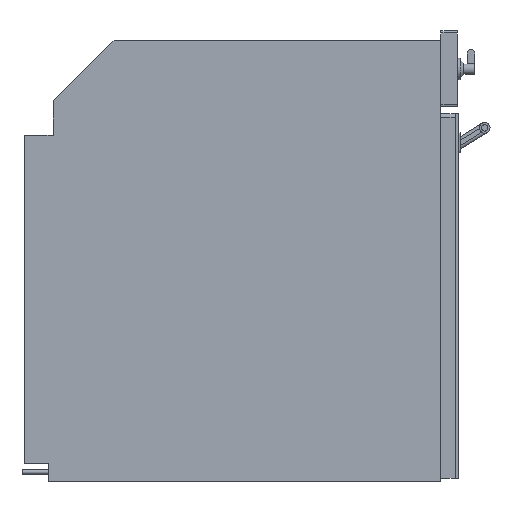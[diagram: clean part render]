
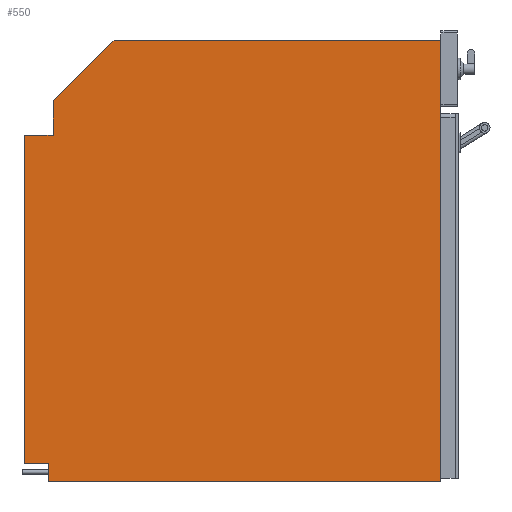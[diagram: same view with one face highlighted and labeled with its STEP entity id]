
A CAD part, front view. The second image highlights one B-rep face of the part: STEP entity #550.
In plain terms, the highlighted planar face has unit normal (0, -1, 0).
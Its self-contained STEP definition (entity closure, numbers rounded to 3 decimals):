
#377=FACE_OUTER_BOUND('',#1578,.T.);
#550=ADVANCED_FACE('',(#377),#758,.F.);
#758=PLANE('',#3584);
#907=LINE('',#4910,#1187);
#910=LINE('',#4916,#1190);
#913=LINE('',#4922,#1193);
#916=LINE('',#4928,#1196);
#919=LINE('',#4934,#1199);
#922=LINE('',#4940,#1202);
#925=LINE('',#4946,#1205);
#928=LINE('',#4954,#1208);
#931=LINE('',#4959,#1211);
#1187=VECTOR('',#3964,1.);
#1190=VECTOR('',#3969,1.);
#1193=VECTOR('',#3974,1.);
#1196=VECTOR('',#3979,1.);
#1199=VECTOR('',#3984,1.);
#1202=VECTOR('',#3989,1.);
#1205=VECTOR('',#3994,1.);
#1208=VECTOR('',#4001,1.);
#1211=VECTOR('',#4006,1.);
#1578=EDGE_LOOP('',(#1926,#1927,#1928,#1929,#1930,#1931,#1932,#1933,#1934));
#1926=ORIENTED_EDGE('',*,*,#3029,.F.);
#1927=ORIENTED_EDGE('',*,*,#3054,.F.);
#1928=ORIENTED_EDGE('',*,*,#3051,.F.);
#1929=ORIENTED_EDGE('',*,*,#3047,.F.);
#1930=ORIENTED_EDGE('',*,*,#3044,.F.);
#1931=ORIENTED_EDGE('',*,*,#3041,.F.);
#1932=ORIENTED_EDGE('',*,*,#3038,.F.);
#1933=ORIENTED_EDGE('',*,*,#3035,.F.);
#1934=ORIENTED_EDGE('',*,*,#3032,.F.);
#2709=VERTEX_POINT('',#4909);
#2710=VERTEX_POINT('',#4911);
#2712=VERTEX_POINT('',#4917);
#2714=VERTEX_POINT('',#4923);
#2716=VERTEX_POINT('',#4929);
#2718=VERTEX_POINT('',#4935);
#2720=VERTEX_POINT('',#4941);
#2722=VERTEX_POINT('',#4947);
#2725=VERTEX_POINT('',#4955);
#3029=EDGE_CURVE('',#2709,#2710,#907,.T.);
#3032=EDGE_CURVE('',#2710,#2712,#910,.T.);
#3035=EDGE_CURVE('',#2712,#2714,#913,.T.);
#3038=EDGE_CURVE('',#2714,#2716,#916,.T.);
#3041=EDGE_CURVE('',#2716,#2718,#919,.T.);
#3044=EDGE_CURVE('',#2718,#2720,#922,.T.);
#3047=EDGE_CURVE('',#2720,#2722,#925,.T.);
#3051=EDGE_CURVE('',#2722,#2725,#928,.T.);
#3054=EDGE_CURVE('',#2725,#2709,#931,.T.);
#3584=AXIS2_PLACEMENT_3D('',#4961,#4009,#4010);
#3964=DIRECTION('',(0.,0.,1.));
#3969=DIRECTION('',(1.,0.,0.));
#3974=DIRECTION('',(0.,0.,1.));
#3979=DIRECTION('',(0.707,0.,0.707));
#3984=DIRECTION('',(1.,0.,0.));
#3989=DIRECTION('',(0.,0.,-1.));
#3994=DIRECTION('',(-1.,0.,0.));
#4001=DIRECTION('',(0.,0.,1.));
#4006=DIRECTION('',(-1.,0.,0.));
#4009=DIRECTION('',(0.,1.,0.));
#4010=DIRECTION('',(0.,0.,1.));
#4909=CARTESIAN_POINT('',(0.,0.,23.));
#4910=CARTESIAN_POINT('',(0.,0.,23.));
#4911=CARTESIAN_POINT('',(0.,0.,455.));
#4916=CARTESIAN_POINT('',(0.,0.,455.));
#4917=CARTESIAN_POINT('',(38.,0.,455.));
#4922=CARTESIAN_POINT('',(38.,0.,455.));
#4923=CARTESIAN_POINT('',(38.,0.,500.));
#4928=CARTESIAN_POINT('',(38.,0.,500.));
#4929=CARTESIAN_POINT('',(118.,0.,580.));
#4934=CARTESIAN_POINT('',(118.,0.,580.));
#4935=CARTESIAN_POINT('',(548.,0.,580.));
#4940=CARTESIAN_POINT('',(548.,0.,580.));
#4941=CARTESIAN_POINT('',(548.,0.,0.));
#4946=CARTESIAN_POINT('',(548.,0.,0.));
#4947=CARTESIAN_POINT('',(32.,0.,0.));
#4954=CARTESIAN_POINT('',(32.,0.,0.));
#4955=CARTESIAN_POINT('',(32.,0.,23.));
#4959=CARTESIAN_POINT('',(32.,0.,23.));
#4961=CARTESIAN_POINT('',(0.,0.,0.));
